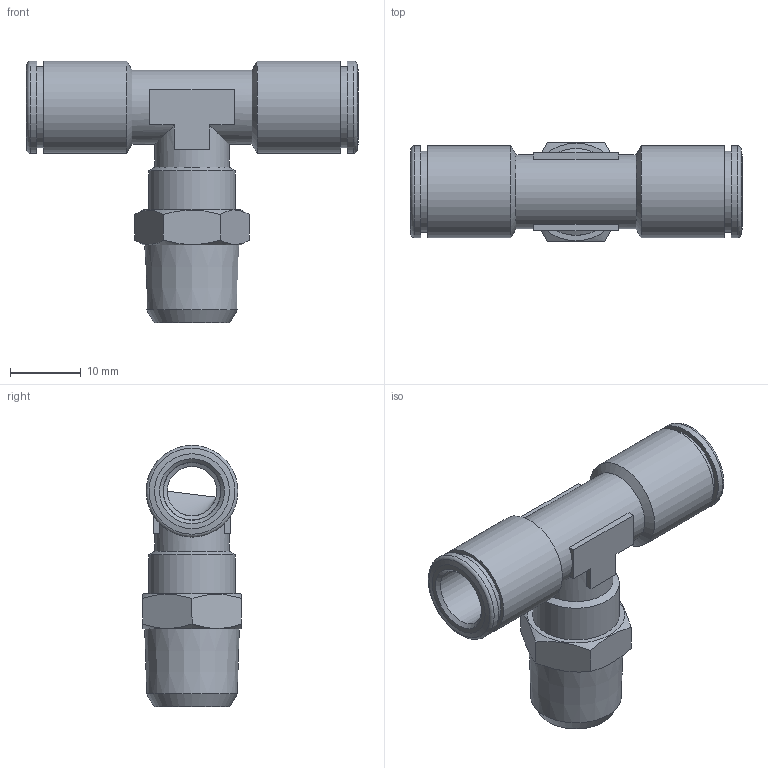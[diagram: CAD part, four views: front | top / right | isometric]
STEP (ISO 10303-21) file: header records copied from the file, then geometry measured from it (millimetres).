
FILE_DESCRIPTION(/* description */ (''),/* implementation_level */ '2;1');
FILE_NAME(/* name */ '202056-ES-I1-N2_STX020K_8_R14_05.07.16',/* time_stamp */ '2016-07-05T12:10:42+02:00',/* author */ (''),/* organization */ (''),/* preprocessor_version */ 'ST-DEVELOPER v16.5',/* originating_system */ 'HiCAD 2016 2101.0 Build 254',/* authorisation */ '');
FILE_SCHEMA (('AUTOMOTIVE_DESIGN { 1 0 10303 214 1 1 1 1 }'));
Length unit declared in the file: millimetre
Products named in the file (5): Root; 214626-N2; R202005-ES-N1-N2; DR8-1_NEU
Assembly tree (4 placements, depth 2):
  Root
    214626-N2
    R202005-ES-N1-N2
    DR8-1_NEU
    DR8-1_NEU
Bounding box: 47 x 14 x 37 mm (x, y, z)
Volume: 4972.8 mm3; surface area: 6665.8 mm2
Topology: 4 solids, 4 shells, 98 faces, 208 edges, 127 vertices
Faces by surface type: plane 41, cone 28, cylinder 27, torus 2
Full cylindrical faces by diameter (mm): 5.5 x1, 7 x3, 8.1 x2, 8.2 x2, 9 x2, 10.1 x4, 10.5 x2, 11 x2, 11.5 x2, 11.6 x2, 12.3 x1, 13 x4
Entity records: 3807 total; most frequent: DIRECTION 448, CARTESIAN_POINT 367, PRESENTATION_STYLE_ASSIGNMENT 288, COLOUR_RGB 285, DRAUGHTING_PRE_DEFINED_CURVE_FONT 284, CURVE_STYLE 284, OVER_RIDING_STYLED_ITEM 284, ORIENTED_EDGE 284
